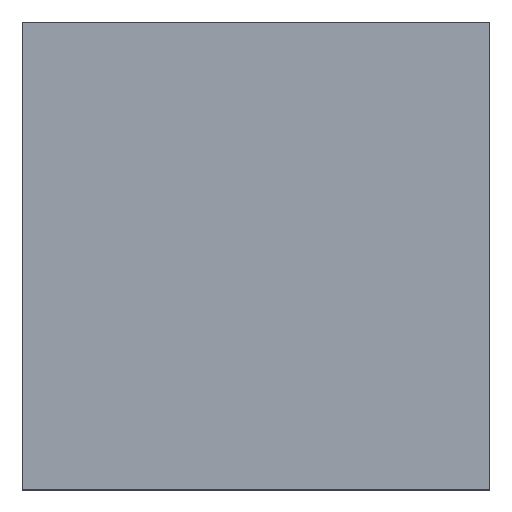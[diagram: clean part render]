
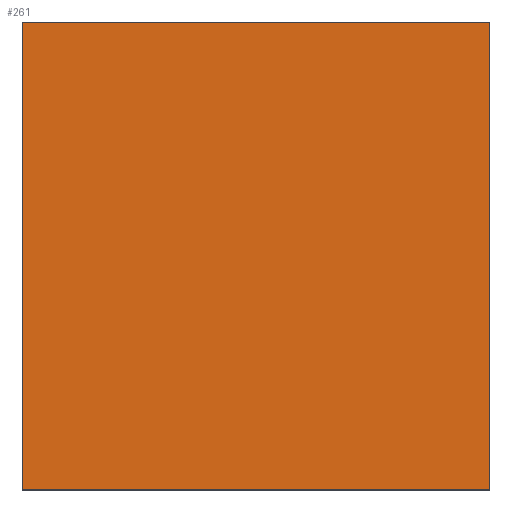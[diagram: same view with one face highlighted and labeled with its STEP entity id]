
A CAD part, top view. The second image highlights one B-rep face of the part: STEP entity #261.
In plain terms, the highlighted planar face has unit normal (0, 0, 1).
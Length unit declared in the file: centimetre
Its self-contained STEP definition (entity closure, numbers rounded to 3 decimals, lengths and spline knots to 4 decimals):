
#2 = VERTEX_POINT ( 'NONE', #121 ) ;
#7 = VECTOR ( 'NONE', #58, 100. ) ;
#8 = CARTESIAN_POINT ( 'NONE',  ( 0., 1000., 1000. ) ) ;
#14 = VERTEX_POINT ( 'NONE', #8 ) ;
#26 = CARTESIAN_POINT ( 'NONE',  ( 0., 1000., 1000. ) ) ;
#27 = EDGE_CURVE ( 'NONE', #14, #2, #217, .T. ) ;
#33 = CARTESIAN_POINT ( 'NONE',  ( 1000., 1000., 1000. ) ) ;
#34 = CARTESIAN_POINT ( 'NONE',  ( 1000., 1000., 1000. ) ) ;
#43 = EDGE_CURVE ( 'NONE', #236, #196, #71, .T. ) ;
#45 = PLANE ( 'NONE',  #318 ) ;
#47 = VECTOR ( 'NONE', #192, 100. ) ;
#48 = LINE ( 'NONE', #26, #305 ) ;
#52 = CARTESIAN_POINT ( 'NONE',  ( 0., 1000., 1000. ) ) ;
#55 = ORIENTED_EDGE ( 'NONE', *, *, #43, .T. ) ;
#57 = EDGE_CURVE ( 'NONE', #196, #14, #48, .T. ) ;
#58 = DIRECTION ( 'NONE',  ( 0., 1., 0. ) ) ;
#71 = LINE ( 'NONE', #33, #7 ) ;
#96 = ORIENTED_EDGE ( 'NONE', *, *, #27, .T. ) ;
#121 = CARTESIAN_POINT ( 'NONE',  ( 0., 0., 1000. ) ) ;
#142 = DIRECTION ( 'NONE',  ( 1., 0., 0. ) ) ;
#146 = VECTOR ( 'NONE', #263, 100. ) ;
#168 = FACE_OUTER_BOUND ( 'NONE', #241, .T. ) ;
#169 = CARTESIAN_POINT ( 'NONE',  ( 1000., 0., 1000. ) ) ;
#192 = DIRECTION ( 'NONE',  ( 1., 0., 0. ) ) ;
#196 = VERTEX_POINT ( 'NONE', #34 ) ;
#212 = ORIENTED_EDGE ( 'NONE', *, *, #231, .T. ) ;
#217 = LINE ( 'NONE', #52, #146 ) ;
#224 = ORIENTED_EDGE ( 'NONE', *, *, #57, .T. ) ;
#231 = EDGE_CURVE ( 'NONE', #2, #236, #328, .T. ) ;
#236 = VERTEX_POINT ( 'NONE', #169 ) ;
#241 = EDGE_LOOP ( 'NONE', ( #96, #212, #55, #224 ) ) ;
#250 = DIRECTION ( 'NONE',  ( 0., 0., 1. ) ) ;
#261 = ADVANCED_FACE ( 'NONE', ( #168 ), #45, .T. ) ;
#263 = DIRECTION ( 'NONE',  ( 0., -1., 0. ) ) ;
#296 = DIRECTION ( 'NONE',  ( -1., 0., 0. ) ) ;
#305 = VECTOR ( 'NONE', #296, 100. ) ;
#312 = CARTESIAN_POINT ( 'NONE',  ( 0., 0., 1000. ) ) ;
#318 = AXIS2_PLACEMENT_3D ( 'NONE', #312, #250, #142 ) ;
#328 = LINE ( 'NONE', #330, #47 ) ;
#330 = CARTESIAN_POINT ( 'NONE',  ( 0., 0., 1000. ) ) ;
